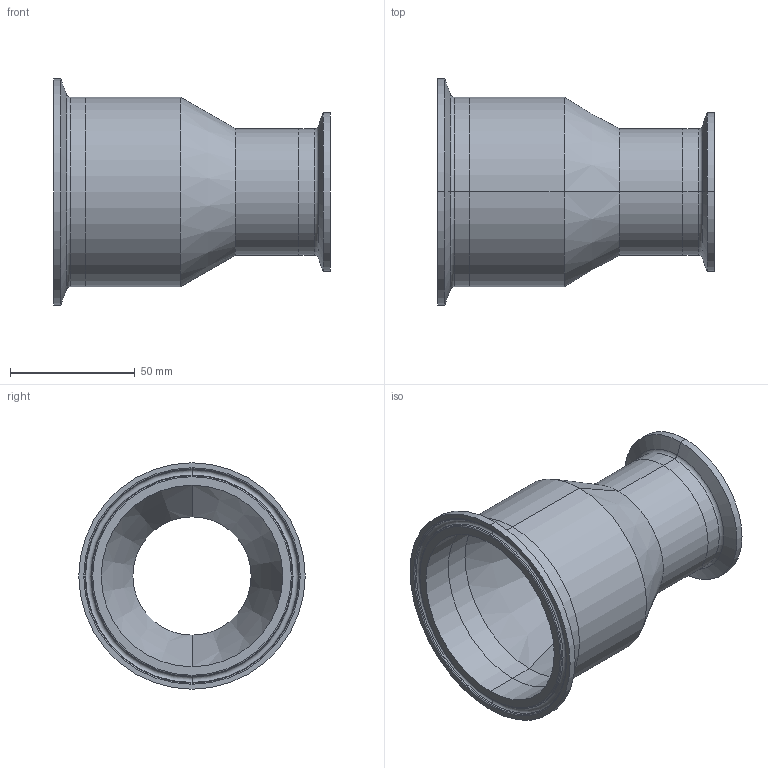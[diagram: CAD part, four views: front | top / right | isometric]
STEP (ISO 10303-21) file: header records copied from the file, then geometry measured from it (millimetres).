
FILE_DESCRIPTION (( 'STEP AP214' ), '1' );
FILE_NAME ('TEG31SCC6L3.0X2.0.STEP', '2025-09-12T15:43:56', ( '' ), ( '' ), 'SwSTEP 2.0', 'SolidWorks 2023', '' );
FILE_SCHEMA (( 'AUTOMOTIVE_DESIGN' ));
Length unit declared in the file: inch
Products named in the file (4): EG2CS 3.0 REV3; EG2CS 2.0 REV2; TEG31SCC6L3.0X2.0; TE31SWW6L3.0X2.0
Assembly tree (3 placements, depth 2):
  TEG31SCC6L3.0X2.0
    TE31SWW6L3.0X2.0
    EG2CS 3.0 REV3
    EG2CS 2.0 REV2
Bounding box: 111.12 x 90.91 x 90.91 mm (x, y, z)
Volume: 106377.5 mm3; surface area: 51578.6 mm2
Topology: 3 solids, 3 shells, 60 faces, 120 edges, 68 vertices
Faces by surface type: cylinder 20, cone 16, torus 16, plane 8
Entity records: 1707 total; most frequent: DIRECTION 336, CARTESIAN_POINT 254, ORIENTED_EDGE 240, AXIS2_PLACEMENT_3D 150, EDGE_CURVE 120, CIRCLE 84, VERTEX_POINT 68, EDGE_LOOP 68
